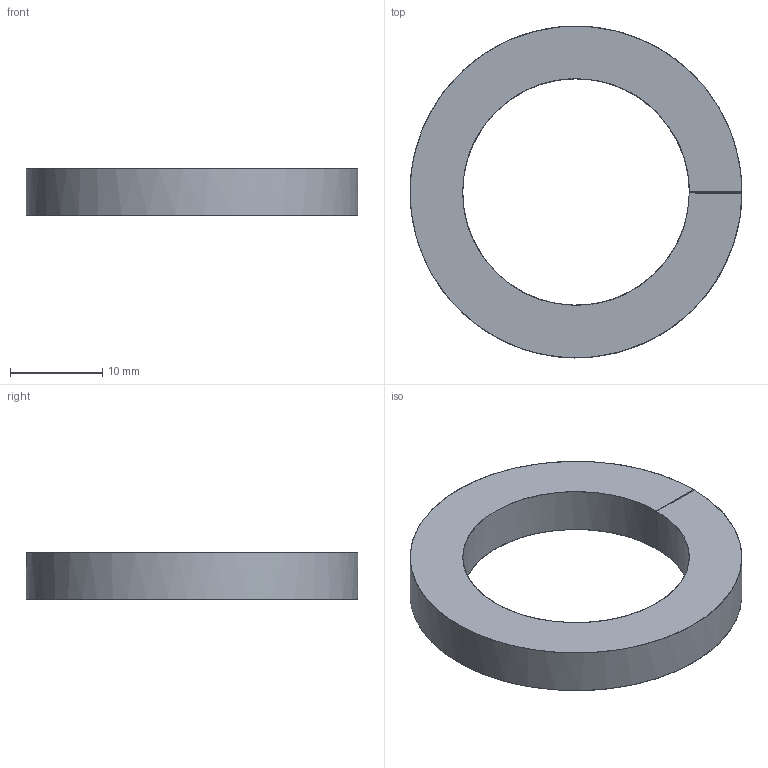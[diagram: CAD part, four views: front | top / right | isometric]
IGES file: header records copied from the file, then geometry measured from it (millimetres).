
Global section: file name: E:\UnigraphicsGraphicData\MISUMI_PRESS-PARTS\IGES\3d_cbw24_06371_r00.igs; native system: NX V5.0; preprocessor: UGS NX IGES V5.0; author: MISUMI; date: 20110105.160204; units: millimetre
Bounding box: 35.9 x 35.9 x 5 mm (x, y, z)
Surface area: 2083.7 mm2 (no closed solid volume)
Topology: 0 solids, 0 shells, 6 faces, 68 edges, 68 vertices
Faces by surface type: bspline 6
